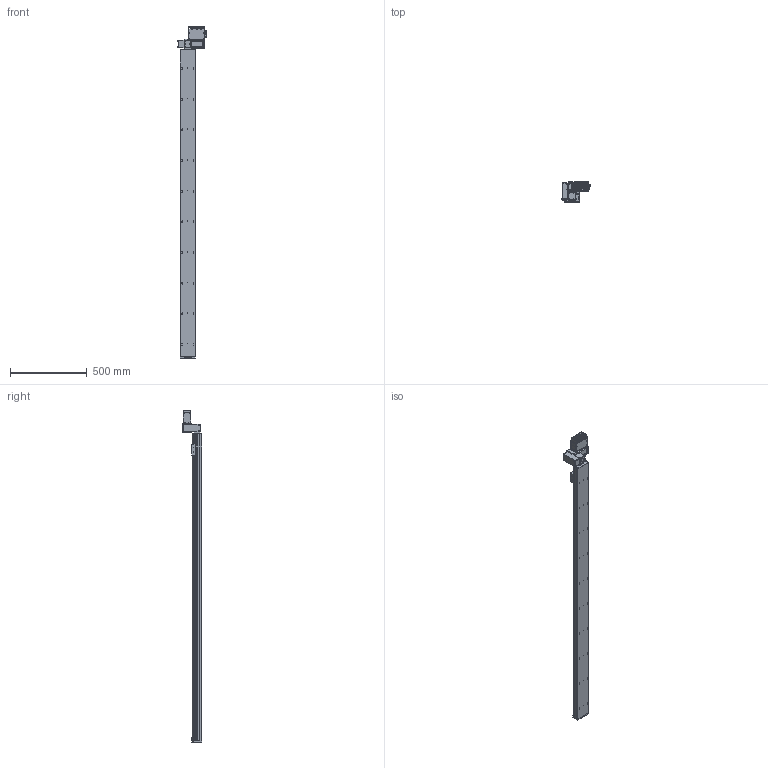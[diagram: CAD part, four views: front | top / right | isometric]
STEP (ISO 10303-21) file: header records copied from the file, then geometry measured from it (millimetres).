
FILE_DESCRIPTION (( 'STEP AP203' ), '1' );
FILE_NAME ('S10 TBN LT S2000.STEP', '2012-06-19T09:54:19', ( 'Conseil Régional Haute-Normandie' ), ( 'Conseil Régional Haute-Normandie' ), 'SwSTEP 2.0', 'SolidWorks 2010', '' );
FILE_SCHEMA (( 'CONFIG_CONTROL_DESIGN' ));
Length unit declared in the file: millimetre
Products named in the file (29): Cvis M5 L30_Default; embout; Moteur 60BLDC90A_3; vis M5 L12_Default; Vis M5 L16-2_Default_1; Colonnette_3; BU45 Carte d''axe A11_5; Sub D 9cts 90_X2_00B_X0__3; Radiateur profil_X2_00E9_X0_ 100x25_3; axe 2000; S10 TBN LT S2000; cache t皻e axe_Default; cache t皻e_Default; palette tbn; plaque de bout s10_Default; Plaque racord_Default; renvoi LH_Default; vis M5 L5_Default; Assem1_7; T_X2_00F4_X0_le contre le moteur_5; BU41 Carte Alimentation P05_3; Couvercle_3; T_X2_00F4_X0_le fond_3; Connecteur rond D10 3cts_5; Connecteur rond D12 4cts_5; Colonnette ronde_3; T_X2_00F4_X0_le Arri_X2_00E8_X0_re_5; T_X2_00F4_X0_le lat_X2_00E9_X0_rale_5; Vis TF 3 torkx_1_1
Assembly tree (62 placements, depth 3):
  S10 TBN LT S2000
    Vis M5 L16-2_Default_1  x4
    vis M5 L5_Default  x4
    renvoi LH_Default
    vis M5 L12_Default  x4
    axe 2000
    cache t皻e axe_Default
    cache t皻e_Default  x2
    Plaque racord_Default
    Cvis M5 L30_Default  x2
    palette tbn
    Assem1_7
      T_X2_00F4_X0_le Arri_X2_00E8_X0_re_5
      Vis TF 3 torkx_1_1  x21
      T_X2_00F4_X0_le fond_3
      Colonnette ronde_3
      T_X2_00F4_X0_le lat_X2_00E9_X0_rale_5  x2
      BU45 Carte d''axe A11_5
      Connecteur rond D10 3cts_5  x2
      Colonnette_3  x2
      Connecteur rond D12 4cts_5
      Moteur 60BLDC90A_3
      Sub D 9cts 90_X2_00B_X0__3
      Couvercle_3
      T_X2_00F4_X0_le contre le moteur_5
      BU41 Carte Alimentation P05_3
      Radiateur profil_X2_00E9_X0_ 100x25_3
    plaque de bout s10_Default
    embout
Bounding box: 189.8 x 127 x 2166.49 mm (x, y, z)
Volume: 11175530 mm3; surface area: 1246989.8 mm2
Topology: 61 solids, 61 shells, 2331 faces, 5775 edges, 3730 vertices
Faces by surface type: plane 1104, cylinder 1010, cone 174, bspline 40, torus 3
Entity records: 48692 total; most frequent: CARTESIAN_POINT 8774, DIRECTION 7886, ORIENTED_EDGE 7146, EDGE_CURVE 3573, AXIS2_PLACEMENT_3D 2941, VERTEX_POINT 2334, VECTOR 2004, LINE 2004
